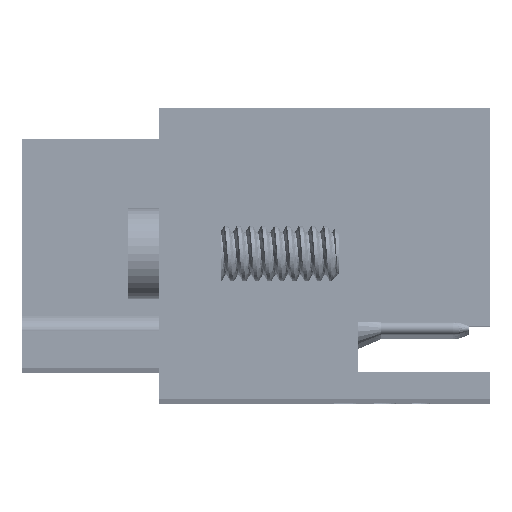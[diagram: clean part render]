
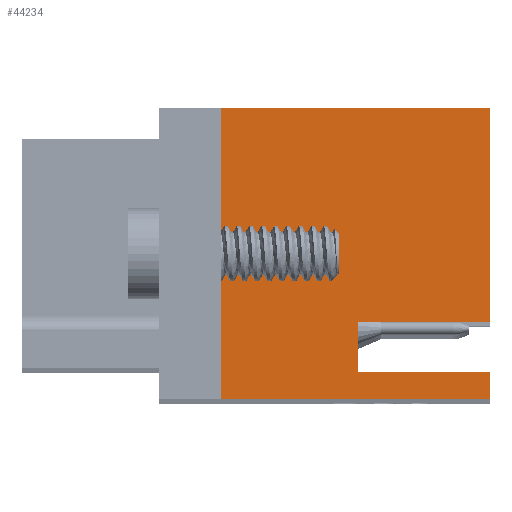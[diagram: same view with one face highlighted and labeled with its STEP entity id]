
A CAD part, top view. The second image highlights one B-rep face of the part: STEP entity #44234.
In plain terms, the highlighted planar face has unit normal (0, 0, 1) as drawn and (0, 1, 0) by its records, which use the part's own axes.
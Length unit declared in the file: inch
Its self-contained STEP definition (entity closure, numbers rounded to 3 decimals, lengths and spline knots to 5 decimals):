
#2757=CARTESIAN_POINT('',(0.604,2.627,0.2925));
#2758=VERTEX_POINT('',#2757);
#2765=CARTESIAN_POINT('',(0.063,2.627,0.2925));
#2766=VERTEX_POINT('',#2765);
#2767=CARTESIAN_POINT('',(0.063,2.627,0.2925));
#2768=DIRECTION('',(1.0,0.0,0.0));
#2769=VECTOR('',#2768,0.541);
#2770=LINE('',#2767,#2769);
#2771=EDGE_CURVE('',#2766,#2758,#2770,.T.);
#5184=CARTESIAN_POINT('',(0.063,2.627,-0.2925));
#5185=VERTEX_POINT('',#5184);
#5192=CARTESIAN_POINT('',(0.604,2.627,-0.2925));
#5193=VERTEX_POINT('',#5192);
#5194=CARTESIAN_POINT('',(0.063,2.627,-0.2925));
#5195=DIRECTION('',(1.0,0.0,0.0));
#5196=VECTOR('',#5195,0.541);
#5197=LINE('',#5194,#5196);
#5198=EDGE_CURVE('',#5185,#5193,#5197,.T.);
#32711=CARTESIAN_POINT('',(0.339,2.627,0.1375));
#32712=VERTEX_POINT('',#32711);
#32719=CARTESIAN_POINT('',(0.339,2.627,0.2375));
#32720=VERTEX_POINT('',#32719);
#32721=CARTESIAN_POINT('',(0.339,2.627,0.2375));
#32722=DIRECTION('',(0.0,0.0,-1.0));
#32723=VECTOR('',#32722,0.1);
#32724=LINE('',#32721,#32723);
#32725=EDGE_CURVE('',#32720,#32712,#32724,.T.);
#43960=CARTESIAN_POINT('',(0.604,2.627,0.1375));
#43961=VERTEX_POINT('',#43960);
#43968=CARTESIAN_POINT('',(0.339,2.627,0.1375));
#43969=DIRECTION('',(1.0,0.0,0.0));
#43970=VECTOR('',#43969,0.265);
#43971=LINE('',#43968,#43970);
#43972=EDGE_CURVE('',#32712,#43961,#43971,.T.);
#43983=CARTESIAN_POINT('',(0.604,2.627,0.2375));
#43984=VERTEX_POINT('',#43983);
#43985=CARTESIAN_POINT('',(0.604,2.627,0.2375));
#43986=DIRECTION('',(-1.0,0.0,0.0));
#43987=VECTOR('',#43986,0.265);
#43988=LINE('',#43985,#43987);
#43989=EDGE_CURVE('',#43984,#32720,#43988,.T.);
#44038=CARTESIAN_POINT('',(0.604,2.627,0.2925));
#44039=DIRECTION('',(0.0,0.0,-1.0));
#44040=VECTOR('',#44039,0.055);
#44041=LINE('',#44038,#44040);
#44042=EDGE_CURVE('',#2758,#43984,#44041,.T.);
#44073=CARTESIAN_POINT('',(0.604,2.627,0.1375));
#44074=DIRECTION('',(0.0,0.0,-1.0));
#44075=VECTOR('',#44074,0.43);
#44076=LINE('',#44073,#44075);
#44077=EDGE_CURVE('',#43961,#5193,#44076,.T.);
#44214=CARTESIAN_POINT('',(0.063,2.627,0.2925));
#44215=DIRECTION('',(0.0,1.0,0.0));
#44216=DIRECTION('',(0.0,0.0,1.0));
#44217=AXIS2_PLACEMENT_3D('',#44214,#44215,#44216);
#44218=PLANE('',#44217);
#44219=ORIENTED_EDGE('',*,*,#43972,.T.);
#44220=ORIENTED_EDGE('',*,*,#44077,.T.);
#44221=ORIENTED_EDGE('',*,*,#5198,.F.);
#44222=CARTESIAN_POINT('',(0.063,2.627,0.2925));
#44223=DIRECTION('',(0.0,0.0,-1.0));
#44224=VECTOR('',#44223,0.585);
#44225=LINE('',#44222,#44224);
#44226=EDGE_CURVE('',#2766,#5185,#44225,.T.);
#44227=ORIENTED_EDGE('',*,*,#44226,.F.);
#44228=ORIENTED_EDGE('',*,*,#2771,.T.);
#44229=ORIENTED_EDGE('',*,*,#44042,.T.);
#44230=ORIENTED_EDGE('',*,*,#43989,.T.);
#44231=ORIENTED_EDGE('',*,*,#32725,.T.);
#44232=EDGE_LOOP('',(#44219,#44220,#44221,#44227,#44228,#44229,#44230,#44231));
#44233=FACE_OUTER_BOUND('',#44232,.T.);
#44234=ADVANCED_FACE('',(#44233),#44218,.T.);
